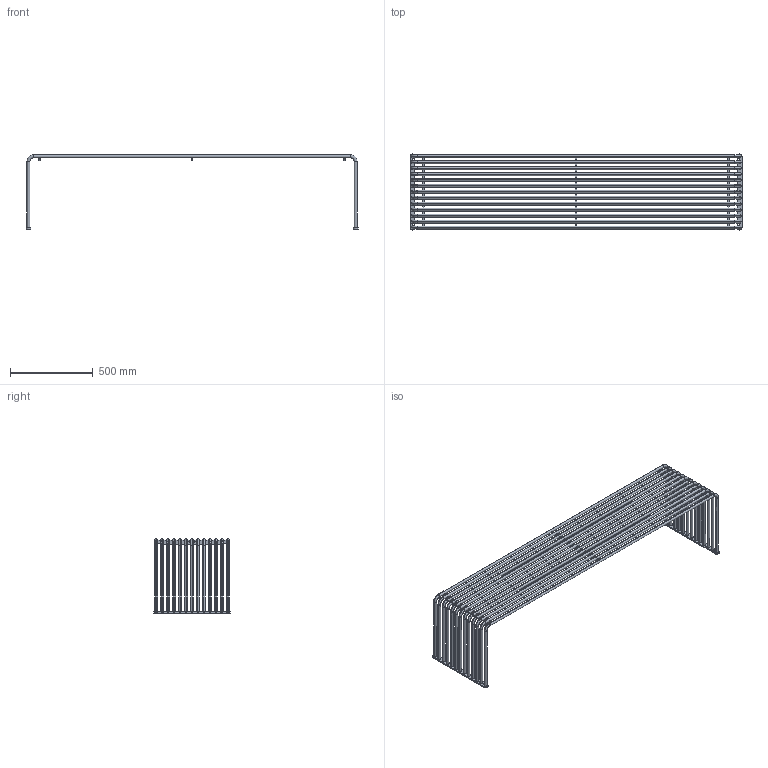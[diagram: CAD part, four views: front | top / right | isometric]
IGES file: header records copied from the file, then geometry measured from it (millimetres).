
Start section: 3D InterOp IGES (Version 25 0 2), Spatial Corp. Copyright (c) 1999-2007.
Global section: file name: 015 Panca piana.igs; native system: Spatial Corp.; preprocessor: 3D InterOp GENERIC/IGES 3.0; author: Noname; organization: Noname; date: 20160803.095131; units: millimetre
Bounding box: 2012 x 462 x 450 mm (x, y, z)
Surface area: 2741434.5 mm2 (no closed solid volume)
Topology: 0 solids, 0 shells, 426 faces, 2170 edges, 2170 vertices
Faces by surface type: revolution 341, extrusion 85
